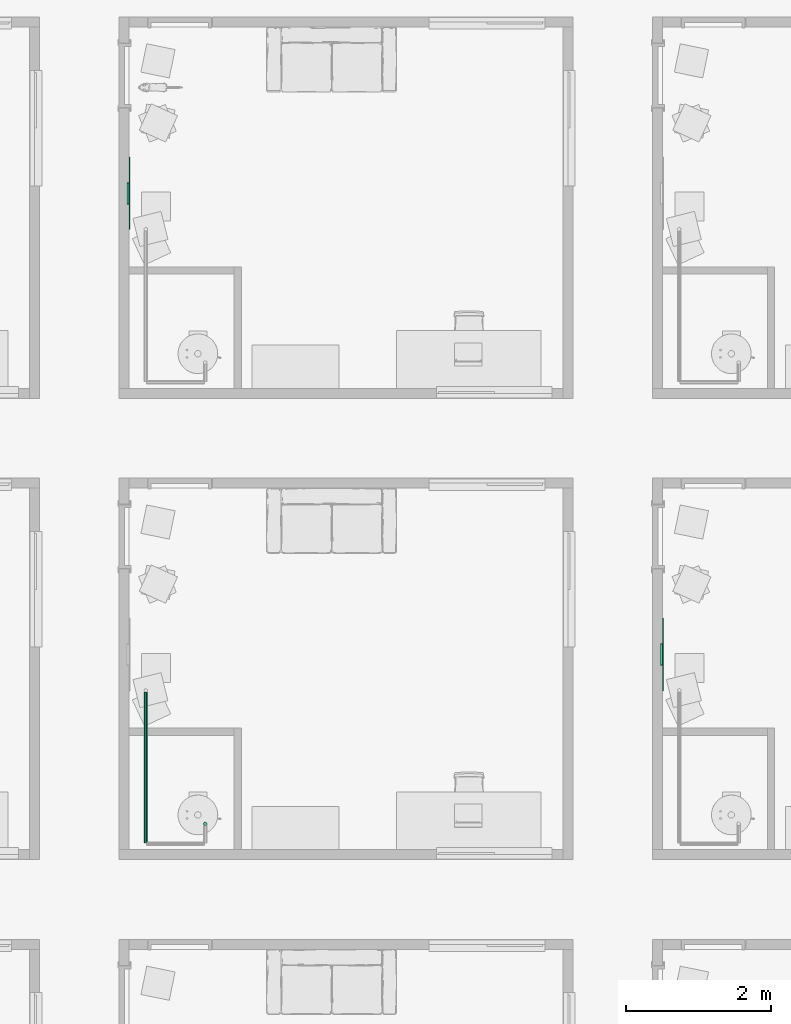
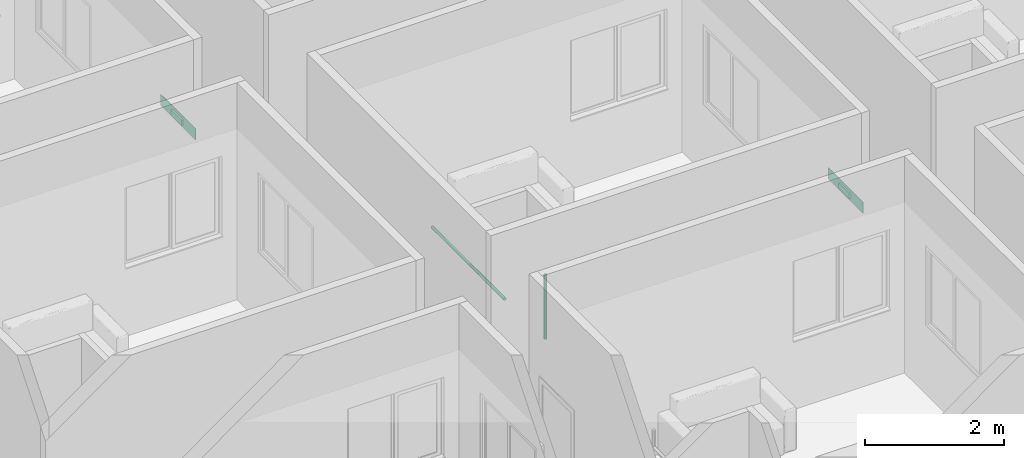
# One storey, part 37 of 71: 2 air terminals, 2 pipe segments.
"""IFC4 building model written with IfcOpenShell, lengths in centimetres."""

from ifc_helpers import new_model, entity, si_unit, converted_unit, derived_unit, direction, frame, origin, place, context, subcontext, project, spatial, arc, indexed_curve, outline, extrude, source, transform, mapped, material, constituent, constituent_set, type_object, type_shapes, element, save


model = new_model("IFC4")

# Units and contexts
model_context = context("Model", 3, precision=0.001, world=origin(), true_north=direction((6.123233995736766e-17, 1.0)))
body_context = subcontext(model_context, "Body", "Model", "MODEL_VIEW")
ifc_project = project(units=[si_unit("LENGTHUNIT", "METRE", prefix="CENTI"), si_unit("AREAUNIT", "SQUARE_METRE"), si_unit("VOLUMEUNIT", "CUBIC_METRE"), derived_unit("THERMALTRANSMITTANCEUNIT", [(si_unit("MASSUNIT", "GRAM", prefix="KILO"), 1), (si_unit("THERMODYNAMICTEMPERATUREUNIT", "KELVIN"), -1), (si_unit("TIMEUNIT", "SECOND"), -3)]), converted_unit("PLANEANGLEUNIT", "DEGREE", entity("IfcPlaneAngleMeasure", 0.017453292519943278), si_unit("PLANEANGLEUNIT", "RADIAN"), dimensions=[0, 0, 0, 0, 0, 0, 0]), derived_unit("MASSDENSITYUNIT", [(si_unit("MASSUNIT", "GRAM", prefix="KILO"), 1), (si_unit("LENGTHUNIT", "METRE"), -3)]), derived_unit("VAPORPERMEABILITYUNIT", [(si_unit("LENGTHUNIT", "METRE"), -1), (si_unit("TIMEUNIT", "SECOND"), 1)]), derived_unit("USERDEFINED", [(si_unit("MASSUNIT", "GRAM", prefix="KILO"), 1), (si_unit("TIMEUNIT", "SECOND"), -3), (si_unit("LENGTHUNIT", "METRE"), 3), (si_unit("ELECTRICCURRENTUNIT", "AMPERE"), -2)]), derived_unit("SPECIFICHEATCAPACITYUNIT", [(si_unit("THERMODYNAMICTEMPERATUREUNIT", "KELVIN"), -1), (si_unit("LENGTHUNIT", "METRE"), 2), (si_unit("TIMEUNIT", "SECOND"), -2)]), derived_unit("THERMALCONDUCTANCEUNIT", [(si_unit("MASSUNIT", "GRAM", prefix="KILO"), 1), (si_unit("THERMODYNAMICTEMPERATUREUNIT", "KELVIN"), -1), (si_unit("TIMEUNIT", "SECOND"), -3), (si_unit("LENGTHUNIT", "METRE"), 1)]), si_unit("PRESSUREUNIT", "PASCAL"), derived_unit("MODULUSOFELASTICITYUNIT", [(si_unit("MASSUNIT", "GRAM", prefix="KILO"), 1), (si_unit("LENGTHUNIT", "METRE"), -1), (si_unit("TIMEUNIT", "SECOND"), -2)]), derived_unit("THERMALEXPANSIONCOEFFICIENTUNIT", [(si_unit("THERMODYNAMICTEMPERATUREUNIT", "KELVIN"), -1)])], contexts=[model_context])

# Site, building, storey, space
site_placement = place(None, origin())
site = spatial("IfcSite", under=ifc_project, at=site_placement, Name="Default", CompositionType="ELEMENT")
building_placement = place(site_placement, origin())
building = spatial("IfcBuilding", under=site, at=building_placement, Name="IDS Escape Game Building", CompositionType="ELEMENT")
storey_placement = place(building_placement, frame((0.0, 0.0, 1200.0)))
storey = spatial("IfcBuildingStorey", under=building, at=storey_placement, Name="03_Third Floor", CompositionType="ELEMENT", Elevation=1200.0)
space_1_placement = place(storey_placement, origin())
space_1 = spatial("IfcSpace", under=storey, at=space_1_placement, Name="126", CompositionType="ELEMENT", PredefinedType="NOTDEFINED")

# Air terminal
ifc_material_1 = material(Name="TB_LVC_referentievlak_00_gen_BERSnl", Category="BE Default")
ifc_constituent_1 = constituent(ifc_material_1, Name="TB_LVC_referentievlak_00_gen_BERSnl", Category="BE Default", fraction=0.00014157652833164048)
ifc_material_2 = material(Name="ARC_FME.h2_staal_00_gen_BERSnl", Category="h - metaal")
ifc_constituent_2 = constituent(ifc_material_2, Name="ARC_FME.h2_staal_00_gen_BERSnl", Category="h - metaal", fraction=0.9998584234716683)
ifc_constituent_set_1 = constituent_set(constituents=[ifc_constituent_1, ifc_constituent_2])
ifc_constituent_3 = constituent(ifc_material_1, Name="BE Referentievlak", Category="BE Default", fraction=0.00014157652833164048)
ifc_constituent_4 = constituent(ifc_material_2, Name="Terminals", Category="h - metaal", fraction=0.9998584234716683)
ifc_constituent_set_2 = constituent_set(constituents=[ifc_constituent_3, ifc_constituent_4])
air_terminal_type = type_object("IfcAirTerminalType", Name="TB_57_AIR_FB_aanzuigrooster - 1 rechthoekige aansluiting - calculated flow_gen_BERSnl:Air Terminal - Exhaust", PredefinedType="GRILLE", material=ifc_constituent_set_2)
shared_shape = source(origin(), body_context, "Body", "SweptSolid", [
    extrude(outline(indexed_curve([(-0.5, -2.0290176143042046e-15), (6.8507733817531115e-16, -0.5000000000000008), (0.5, 2.0290176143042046e-15), (-5.361679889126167e-16, 0.49999999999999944)], segments=[arc(1, 2, 3), arc(3, 4, 1)], self_intersect=False)), frame((0.0, 0.0, 0.0), z_axis=(1.7453292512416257e-05, 0.0, 1.0), x_axis=(0.0, 1.0, 0.0)), (0.0, 0.0, 1.0), 0.09999999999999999),
    extrude(outline(indexed_curve([(-14.900000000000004, -4.9), (14.900000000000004, -4.9), (14.900000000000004, 4.9), (-14.900000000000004, 4.9), (-14.900000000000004, -4.9)], self_intersect=False)), frame((-4.886921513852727e-05, 0.0, -2.7999999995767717)), (0.0, 0.0, 1.0), 2.7999999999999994),
    extrude(outline(indexed_curve([(-50.0, -10.0), (50.0, -10.0), (50.0, 10.0), (-50.0, 10.0), (-50.0, -10.0)], self_intersect=False)), frame((0.0, 0.0, 0.0), z_axis=(0.0, 0.0, 1.0), x_axis=(-1.0, 0.0, 0.0)), (0.0, 0.0, 1.0), 0.6999999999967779),
])
type_shapes(air_terminal_type, [shared_shape])
air_terminal_1_placement = place(space_1_placement, frame((4435.0, 1559.0, 24.0), z_axis=(1.0, 0.0, 0.0), x_axis=(0.0, 1.0, 0.0)))
element("IfcAirTerminal", 1, at=air_terminal_1_placement, inside=space_1, type_object=air_terminal_type, material=ifc_constituent_set_1, Name="TB_57_AIR_FB_aanzuigrooster - 1 rechthoekige aansluiting - calculated flow_gen_BERSnl:Air Terminal - Exhaust", ObjectType="TB_57_AIR_FB_aanzuigrooster - 1 rechthoekige aansluiting - calculated flow_gen_BERSnl:Air Terminal - Exhaust", PredefinedType="GRILLE", context=body_context, shape_type="MappedRepresentation", body=[
    mapped(shared_shape, transform((0.0, 0.0, 0.0), scale=1.0)),
])

# Space
space_2_placement = place(storey_placement, origin())
space_2 = spatial("IfcSpace", under=storey, at=space_2_placement, Name="132", CompositionType="ELEMENT", PredefinedType="NOTDEFINED")

# Air terminal
ifc_constituent_5 = constituent(ifc_material_1, Name="TB_LVC_referentievlak_00_gen_BERSnl", Category="BE Default", fraction=0.00014157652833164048)
ifc_constituent_6 = constituent(ifc_material_2, Name="ARC_FME.h2_staal_00_gen_BERSnl", Category="h - metaal", fraction=0.9998584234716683)
ifc_constituent_set_3 = constituent_set(constituents=[ifc_constituent_5, ifc_constituent_6])
air_terminal_2_placement = place(space_2_placement, frame((3697.0, 2197.0, 24.0), z_axis=(1.0, 0.0, 0.0), x_axis=(0.0, 1.0, 0.0)))
element("IfcAirTerminal", 2, at=air_terminal_2_placement, inside=space_2, type_object=air_terminal_type, material=ifc_constituent_set_3, Name="TB_57_AIR_FB_aanzuigrooster - 1 rechthoekige aansluiting - calculated flow_gen_BERSnl:Air Terminal - Exhaust", ObjectType="TB_57_AIR_FB_aanzuigrooster - 1 rechthoekige aansluiting - calculated flow_gen_BERSnl:Air Terminal - Exhaust", PredefinedType="GRILLE", context=body_context, shape_type="MappedRepresentation", body=[
    mapped(shared_shape, transform((0.0, 0.0, 0.0), scale=1.0)),
])

# Pipe segments
pipe_segment_type = type_object("IfcPipeSegmentType", Name="Pipe Types:Piping Aluminum", PredefinedType="NOTDEFINED")
pipe_segment_1_placement = place(storey_placement, origin())
element("IfcPipeSegment", 3, at=pipe_segment_1_placement, inside=storey, type_object=pipe_segment_type, Name="Pipe Types:Piping Aluminum", ObjectType="Pipe Types:Piping Aluminum", PredefinedType="NOTDEFINED", context=body_context, shape_type="SweptSolid", body=[
    extrude(outline(indexed_curve([(2.412999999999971, 0.0), (1.7062486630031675, 1.7062486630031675), (0.0, 2.412999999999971), (-1.7062486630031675, 1.7062486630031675), (-2.412999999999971, 0.0), (-1.7062486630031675, -1.7062486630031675), (0.0, -2.412999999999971), (1.7062486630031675, -1.7062486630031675)], segments=[arc(1, 2, 3), arc(3, 4, 5), arc(5, 6, 7), arc(7, 8, 1)], self_intersect=False)), frame((3802.150000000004, 1324.9000000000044, 128.0), z_axis=(0.0, 0.0, 1.0), x_axis=(-1.0, 0.0, 0.0)), (0.0, 0.0, 1.0), 112.90000000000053),
])
pipe_segment_2_placement = place(storey_placement, origin())
element("IfcPipeSegment", 4, at=pipe_segment_2_placement, inside=storey, type_object=pipe_segment_type, Name="Pipe Types:Piping Aluminum", ObjectType="Pipe Types:Piping Aluminum", PredefinedType="NOTDEFINED", context=body_context, shape_type="SweptSolid", body=[
    extrude(outline(indexed_curve([(2.412999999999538, 0.0), (1.7062486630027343, 1.7062486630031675), (-4.331468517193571e-13, 2.412999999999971), (-1.7062486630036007, 1.7062486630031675), (-2.4130000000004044, 0.0), (-1.7062486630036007, -1.7062486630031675), (-4.331468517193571e-13, -2.412999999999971), (1.7062486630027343, -1.7062486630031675)], segments=[arc(1, 2, 3), arc(3, 4, 5), arc(5, 6, 7), arc(7, 8, 1)], self_intersect=False)), frame((3720.0467168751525, 1298.364827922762, 242.0), z_axis=(0.0, 1.0, 0.0), x_axis=(1.0, 0.0, 0.0)), (0.0, 0.0, 1.0), 208.80000000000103),
])

save(model, "model.ifc")
